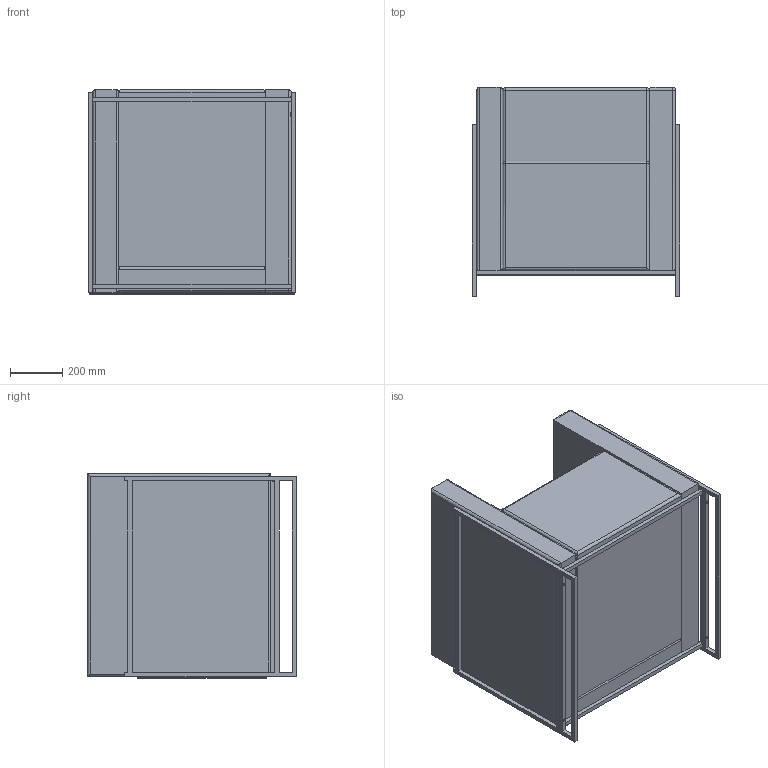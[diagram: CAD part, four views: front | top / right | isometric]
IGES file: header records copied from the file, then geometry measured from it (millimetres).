
Start section: SolidWorks IGES file using analytic representation for surfaces
Global section: file name: C:\Users\hcaixa\Documents\Gabinete Tecnico\72_produtos cliente\Timsteel\Estantes\Estantes  Q16\Q16 versão catalogo\Assemblys\IGS\Novas Peças\Sofa q16.IGS; native system: SolidWorks 2014; preprocessor: SolidWorks 2014; author: hcaixa; date: 190704.115501; units: millimetre
Bounding box: 792.2 x 798.1 x 782 mm (x, y, z)
Surface area: 6177870.9 mm2 (no closed solid volume)
Topology: 0 solids, 0 shells, 175 faces, 2086 edges, 2083 vertices
Faces by surface type: bspline 99, revolution 76
